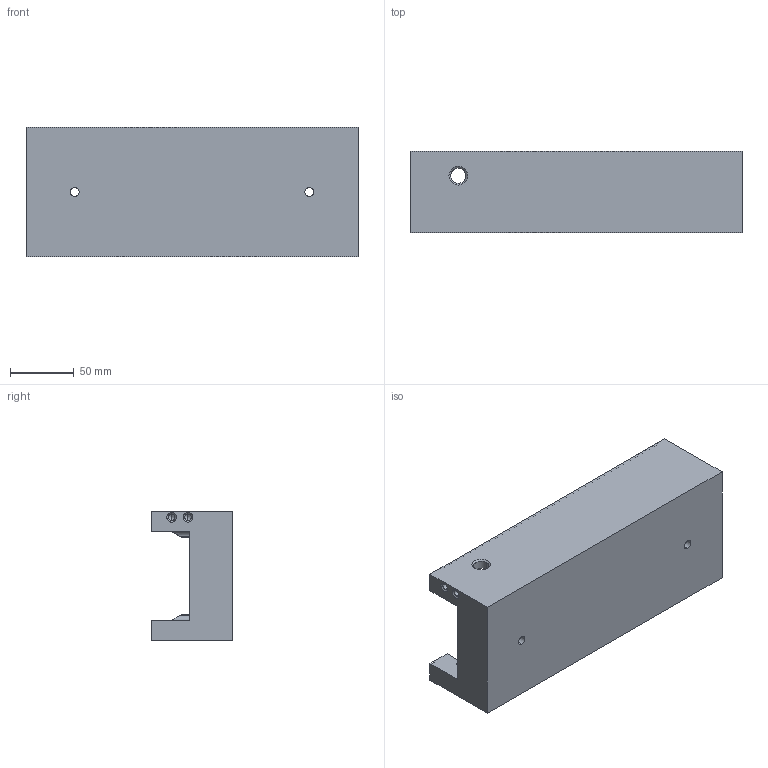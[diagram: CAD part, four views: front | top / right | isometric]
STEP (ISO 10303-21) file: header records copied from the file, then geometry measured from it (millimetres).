
FILE_DESCRIPTION (( 'STEP AP203' ), '1' );
FILE_NAME ('269-18-221.STEP', '2020-03-03T16:20:20', ( '' ), ( '' ), 'SwSTEP 2.0', 'SolidWorks 2017', '' );
FILE_SCHEMA (( 'CONFIG_CONTROL_DESIGN' ));
Length unit declared in the file: inch
Products named in the file (1): 269-18-221
Bounding box: 260.05 x 63.5 x 101.6 mm (x, y, z)
Volume: 834266.5 mm3; surface area: 126711.6 mm2
Topology: 1 solids, 1 shells, 164 faces, 441 edges, 276 vertices
Faces by surface type: cylinder 70, plane 66, cone 28
Entity records: 5309 total; most frequent: CARTESIAN_POINT 1072, DIRECTION 890, ORIENTED_EDGE 850, EDGE_CURVE 425, AXIS2_PLACEMENT_3D 308, VERTEX_POINT 276, VECTOR 274, LINE 274
